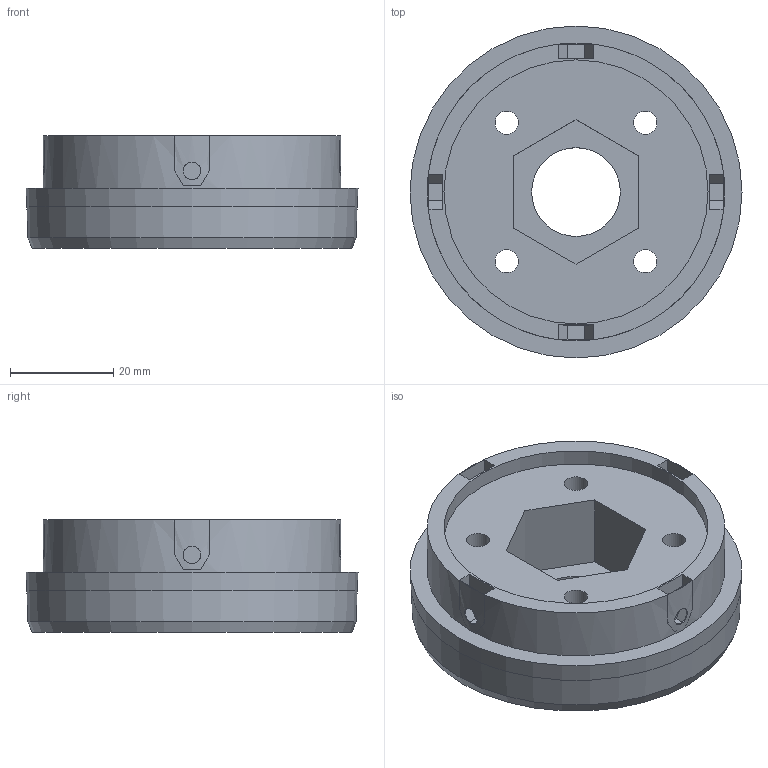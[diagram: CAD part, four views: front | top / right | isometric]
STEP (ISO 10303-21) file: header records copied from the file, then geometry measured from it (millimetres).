
FILE_DESCRIPTION(('FreeCAD Model'),'2;1');
FILE_NAME('Open CASCADE Shape Model','2026-09-19T18:57:27',('FreeCAD'),( 'FreeCAD'),'Open CASCADE STEP processor 7.8','FreeCAD','Unknown');
FILE_SCHEMA(('AUTOMOTIVE_DESIGN { 1 0 10303 214 1 1 1 1 }'));
Length unit declared in the file: millimetre
Products named in the file (1): Open CASCADE STEP translator 7.8 10
Bounding box: 64.36 x 64.36 x 21.8 mm (x, y, z)
Volume: 46742.5 mm3; surface area: 13554.8 mm2
Topology: 1 solids, 1 shells, 73 faces, 186 edges, 125 vertices
Faces by surface type: plane 51, cylinder 15, cone 7
Full cylindrical faces by diameter (mm): 3.4 x8, 4.5 x4, 17.2 x1, 51.2 x1, 57.7 x1
Entity records: 2437 total; most frequent: CARTESIAN_POINT 578, DIRECTION 373, ORIENTED_EDGE 372, EDGE_CURVE 186, LINE 137, VECTOR 137, VERTEX_POINT 125, AXIS2_PLACEMENT_3D 118
